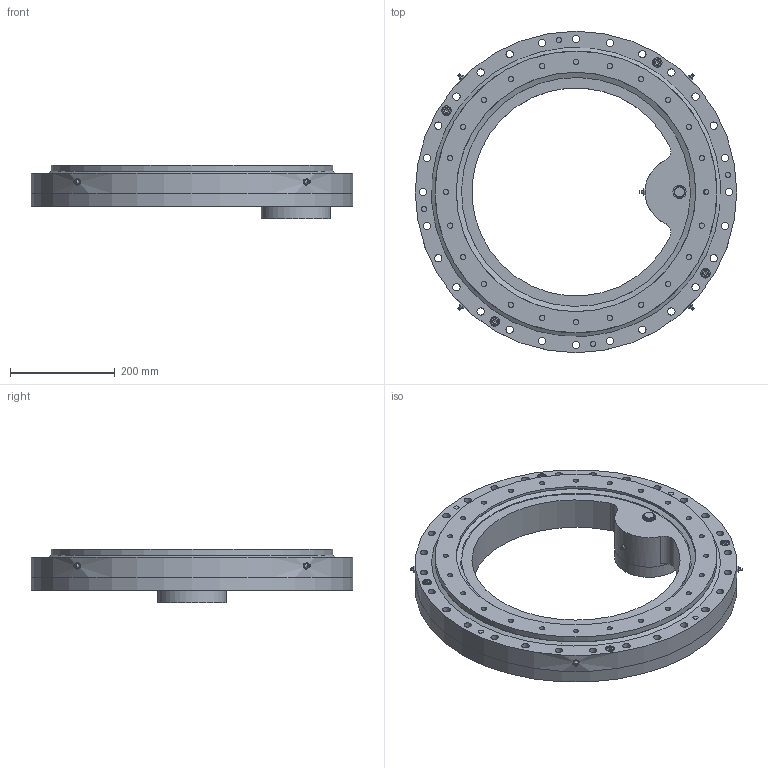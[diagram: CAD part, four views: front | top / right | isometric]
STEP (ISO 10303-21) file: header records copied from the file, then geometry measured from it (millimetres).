
FILE_DESCRIPTION(/* description */ ('STEP AP214'),/* implementation_level */ '2;1');
FILE_NAME(/* name */ '\\Serwer-ad\dnia$\dnia_tomasz_tb\Desktop\Tomcio\1. Cenniki + katalogi + materiały\U- Transmission\Katalogi 2023\Wersja NATECH DRV\Inner gear - slew drive\Our inner gear slew drive STEP\PT-L-0541-I-B-S.stp',/* time_stamp */ '2024-04-30T10:18:28+02:00',/* author */ ('dnia_tomasz_tb'),/* organization */ (''),/* preprocessor_version */ 'ST-DEVELOPER v19',/* originating_system */ 'Autodesk Inventor 2023',/* authorisation */ '');
FILE_SCHEMA (('AUTOMOTIVE_DESIGN { 1 0 10303 214 3 1 1 }'));
Length unit declared in the file: millimetre
Products named in the file (1): PT-L-0541-I-B-S
Bounding box: 615 x 615 x 103 mm (x, y, z)
Surface area: 910355.1 mm2 (no closed solid volume)
Topology: 0 solids, 47 shells, 330 faces, 956 edges, 648 vertices
Faces by surface type: plane 164, cylinder 127, cone 20, torus 19
Full cylindrical faces by diameter (mm): 2 x4, 8.5 x4, 10 x4, 10.2 x28, 14 x28, 15 x8, 16 x28, 18 x4, 21 x1, 25 x1, 45 x1, 65 x1, 66 x1, 82.58 x1, 132 x1, 458 x1, 539 x1, 615 x2
Entity records: 12370 total; most frequent: CARTESIAN_POINT 2627, DIRECTION 2031, ORIENTED_EDGE 1576, EDGE_CURVE 949, AXIS2_PLACEMENT_3D 761, VERTEX_POINT 648, EDGE_LOOP 569, LINE 509
